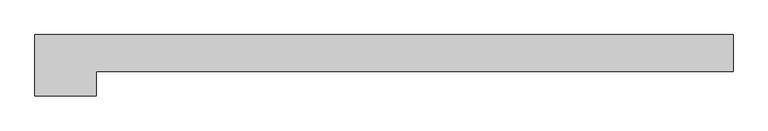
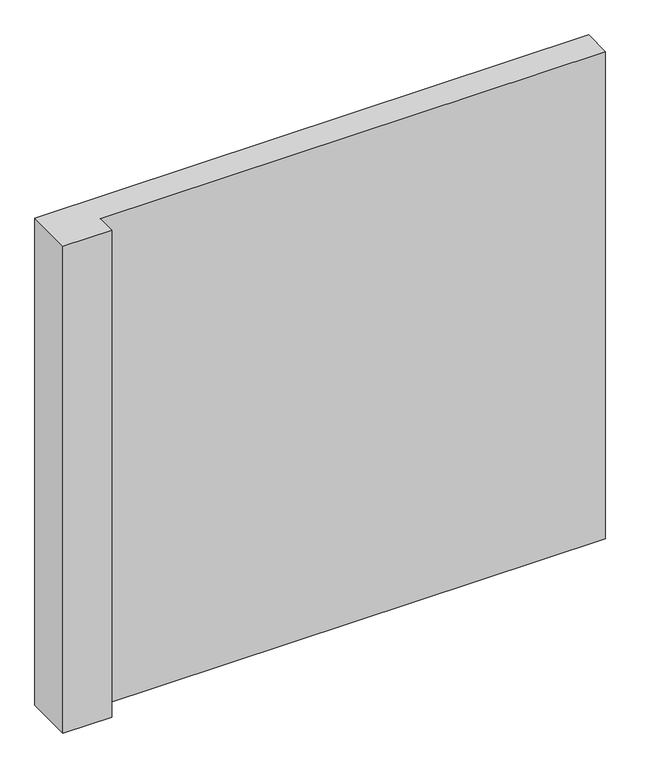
"""IFC4 building model written with IfcOpenShell, lengths in millimetres: column geometry, Columna Estructural Ele : ECO_Ele 25x285x25."""

import ifcopenshell
import ifcopenshell.guid

model = None  # the IFC model being written
_history = None  # IfcOwnerHistory: only IFC2X3 demands one
_inside = {}  # id of a spatial element -> (the spatial element, [elements in it])
_under = {}  # id of a project, library or spatial element -> (it, [spatial elements below it])
_declared = {}  # id of a project -> (the project, [libraries it declares])
_typed = {}  # id of a type object -> (the type object, [elements of that type])
_made_of = {}  # id of a material, layer set ... -> (it, [elements and type objects made of it])


def new_model(schema):
    """Start an empty IFC model of exactly this schema.

    Asked for "IFC4X3", IfcOpenShell would pick the latest addendum, in which some entities
    have other attributes; the version numbers below select the first issue.
    IFC2X3 requires an IfcOwnerHistory on every rooted entity: one is made here for all.
    """
    global model, _history
    if schema == "IFC4X3":
        model = ifcopenshell.file(schema_version=(4, 3, 0, 0))
    else:
        model = ifcopenshell.file(schema=schema)
    _inside.clear()
    _under.clear()
    _declared.clear()
    _typed.clear()
    _made_of.clear()
    _history = None
    if model.schema == "IFC2X3":
        org = make("IfcOrganization", Name="unknown")
        user = make(
            "IfcPersonAndOrganization",
            ThePerson=make("IfcPerson", FamilyName="unknown"),
            TheOrganization=org,
        )
        app = make(
            "IfcApplication",
            ApplicationDeveloper=org,
            Version="unknown",
            ApplicationFullName="unknown",
            ApplicationIdentifier="unknown",
        )
        _history = make(
            "IfcOwnerHistory",
            OwningUser=user,
            OwningApplication=app,
            ChangeAction="ADDED",
            CreationDate=0,
        )
    return model


def make(cls, **values):
    """One entity of the class cls with the attributes given. An attribute that is None is left unset."""
    return model.create_entity(
        cls, **{name: value for name, value in values.items() if value is not None}
    )


def rooted(cls, **values):
    """An entity with a GlobalId (a new one), such as an element, a storey or a relation."""
    return make(cls, GlobalId=ifcopenshell.guid.new(), OwnerHistory=_history, **values)


def si_unit(unit_type, name, prefix=None):
    """IfcSIUnit, for example si_unit("LENGTHUNIT", "METRE", prefix="MILLI")."""
    return make("IfcSIUnit", UnitType=unit_type, Prefix=prefix, Name=name)


def assignment(units):
    """IfcUnitAssignment: the units of a project."""
    return None if units is None else make("IfcUnitAssignment", Units=units)


def point(xyz):
    """IfcCartesianPoint."""
    return None if xyz is None else make("IfcCartesianPoint", Coordinates=xyz)


def direction(xyz):
    """IfcDirection."""
    return None if xyz is None else make("IfcDirection", DirectionRatios=xyz)


def frame(location, z_axis=None, x_axis=None):
    """IfcAxis2Placement3D, a coordinate frame: its origin and axes. An axis left out is left unset."""
    return make(
        "IfcAxis2Placement3D",
        Location=point(location),
        Axis=direction(z_axis),
        RefDirection=direction(x_axis),
    )


def origin():
    """The frame at (0, 0, 0) with its axes left unset."""
    return frame((0.0, 0.0, 0.0))


def place(relative_to, where):
    """IfcLocalPlacement: puts the frame where relative to a parent placement (None: the world)."""
    return make(
        "IfcLocalPlacement", PlacementRelTo=relative_to, RelativePlacement=where
    )


def context(
    kind, dimensions, precision=None, world=None, true_north=None, identifier=None
):
    """IfcGeometricRepresentationContext, for example the 3D "Model" context."""
    return make(
        "IfcGeometricRepresentationContext",
        ContextIdentifier=identifier,
        ContextType=kind,
        CoordinateSpaceDimension=dimensions,
        Precision=precision,
        WorldCoordinateSystem=world,
        TrueNorth=true_north,
    )


def project(units=None, contexts=None):
    """IfcProject with its units and contexts."""
    return rooted(
        "IfcProject",
        Name="project",
        RepresentationContexts=contexts,
        UnitsInContext=assignment(units),
    )


def spatial(cls, under=None, at=None, **own):
    """A site, building, storey or space (cls), placed at a placement, below another one or the project."""
    s = rooted(cls, ObjectPlacement=at, **own)
    if under is not None:
        _under.setdefault(under.id(), (under, []))[1].append(s)
    return s


def polyline(points):
    """IfcPolyline through the points."""
    return make("IfcPolyline", Points=[point(p) for p in points])


def outline(outer, holes=None, kind="AREA"):
    """IfcArbitraryClosedProfileDef: a profile drawn as a closed curve; with holes, ...WithVoids."""
    if holes is None:
        return make("IfcArbitraryClosedProfileDef", ProfileType=kind, OuterCurve=outer)
    return make(
        "IfcArbitraryProfileDefWithVoids",
        ProfileType=kind,
        OuterCurve=outer,
        InnerCurves=holes,
    )


def extrude(swept, where, along, depth):
    """IfcExtrudedAreaSolid: the profile swept, set in the frame where, extruded along a direction by depth."""
    return make(
        "IfcExtrudedAreaSolid",
        SweptArea=swept,
        Position=where,
        ExtrudedDirection=direction(along),
        Depth=depth,
    )


def shape(context_of_items, identifier, shape_type, items):
    """IfcShapeRepresentation: the items that make up one representation, for example the "Body"."""
    return make(
        "IfcShapeRepresentation",
        ContextOfItems=context_of_items,
        RepresentationIdentifier=identifier,
        RepresentationType=shape_type,
        Items=items,
    )


def source(mapping_origin, context_of_items, identifier, shape_type, items):
    """IfcRepresentationMap: a shape defined once, which mapped items show again and again."""
    return make(
        "IfcRepresentationMap",
        MappingOrigin=mapping_origin,
        MappedRepresentation=shape(context_of_items, identifier, shape_type, items),
    )


def transform(
    local_origin,
    x_axis=None,
    y_axis=None,
    z_axis=None,
    scale=None,
    scale2=None,
    scale3=None,
    uniform=True,
):
    """IfcCartesianTransformationOperator3D, or its non-uniform kind. x_axis, y_axis, z_axis: its Axis1, 2, 3."""
    if uniform:
        return make(
            "IfcCartesianTransformationOperator3D",
            Axis1=direction(x_axis),
            Axis2=direction(y_axis),
            LocalOrigin=point(local_origin),
            Scale=scale,
            Axis3=direction(z_axis),
        )
    return make(
        "IfcCartesianTransformationOperator3DnonUniform",
        Axis1=direction(x_axis),
        Axis2=direction(y_axis),
        LocalOrigin=point(local_origin),
        Scale=scale,
        Axis3=direction(z_axis),
        Scale2=scale2,
        Scale3=scale3,
    )


def mapped(mapping_source, mapping_target):
    """IfcMappedItem: shows the shape of a source again, moved by a transform."""
    return make(
        "IfcMappedItem", MappingSource=mapping_source, MappingTarget=mapping_target
    )


def made_of(thing, what):
    """Note that an element or type object is made of a material, layer set ...; save() writes the relation."""
    if what is not None:
        _made_of.setdefault(what.id(), (what, []))[1].append(thing)
    return thing


def element(
    cls,
    number,
    at=None,
    inside=None,
    cuts=None,
    type_object=None,
    material=None,
    context=None,
    identifier="Body",
    shape_type=None,
    held_by="IfcProductDefinitionShape",
    body=None,
    shapes=None,
    **own,
):
    """One element of the class cls, such as IfcWall. Its Tag is "e" and its number.

    at: its placement. inside: the storey or other place that contains it. cuts: it is an
    opening in that element (IfcRelVoidsElement). A single representation is given by context,
    identifier, shape_type and body (its items); several are given by shapes. held_by: the class
    of the entity that holds the representations. save() writes the other relations.
    """
    e = rooted(cls, Tag="e%d" % number, ObjectPlacement=at, **own)
    if body is not None:
        shapes = [shape(context, identifier, shape_type, body)]
    if shapes is not None:
        e.Representation = make(held_by, Representations=shapes)
    if inside is not None:
        _inside.setdefault(inside.id(), (inside, []))[1].append(e)
    if cuts is not None:
        rooted(
            "IfcRelVoidsElement", RelatingBuildingElement=cuts, RelatedOpeningElement=e
        )
    if type_object is not None:
        _typed.setdefault(type_object.id(), (type_object, []))[1].append(e)
    return made_of(e, material)


def aggregate(whole, parts):
    """IfcRelAggregates: a whole, such as a stair, and the parts it consists of."""
    return rooted("IfcRelAggregates", RelatingObject=whole, RelatedObjects=parts)


def save(model, path):
    """Write the relations noted so far, then the file.

    IfcRelAggregates (storeys below a building ...), IfcRelContainedInSpatialStructure (elements
    in a storey), IfcRelDefinesByType, IfcRelAssociatesMaterial and IfcRelDeclares: one each for
    every whole, place, type object, material and project.
    """
    for whole, parts in _under.values():
        aggregate(whole, parts)
    for where, things in _inside.values():
        rooted(
            "IfcRelContainedInSpatialStructure",
            RelatedElements=things,
            RelatingStructure=where,
        )
    for kind, things in _typed.values():
        rooted("IfcRelDefinesByType", RelatedObjects=things, RelatingType=kind)
    for what, things in _made_of.values():
        rooted("IfcRelAssociatesMaterial", RelatedObjects=things, RelatingMaterial=what)
    for by, libraries in _declared.values():
        rooted("IfcRelDeclares", RelatingContext=by, RelatedDefinitions=libraries)
    model.write(path)


def column_15301578(model_context):
    return source(origin(), model_context, "Body", "SweptSolid", [
        extrude(outline(polyline([(125.0, -175.0), (-125.0, -175.0), (-125.0, 75.0), (2725.0, 75.0), (2725.0, -75.0), (125.0, -75.0), (125.0, -175.0)])), frame((0.0, 0.0, 5400.0), z_axis=(0.0, 0.0, 1.0), x_axis=(1.0, 0.0, 0.0)), (0.0, 0.0, 1.0), 2650.0),
    ])


if __name__ == "__main__":
    model = new_model("IFC4")
    model_context = context("Model", 3, world=origin())
    ifc_project = project(units=[si_unit("LENGTHUNIT", "METRE", prefix="MILLI")], contexts=[model_context])
    site = spatial("IfcSite", under=ifc_project)
    building = spatial("IfcBuilding", under=site)
    placement = place(None, origin())
    column_shape = column_15301578(model_context)
    element("IfcColumn", 1, ObjectType="Columna Estructural Ele : ECO_Ele 25x285x25", at=placement, inside=building, context=model_context, shape_type="MappedRepresentation", body=[
        mapped(column_shape, transform((0.0, 0.0, 0.0), x_axis=(1.0, 0.0, 0.0), y_axis=(0.0, 1.0, 0.0), z_axis=(0.0, 0.0, 1.0))),
    ])
    save(model, "model.ifc")
